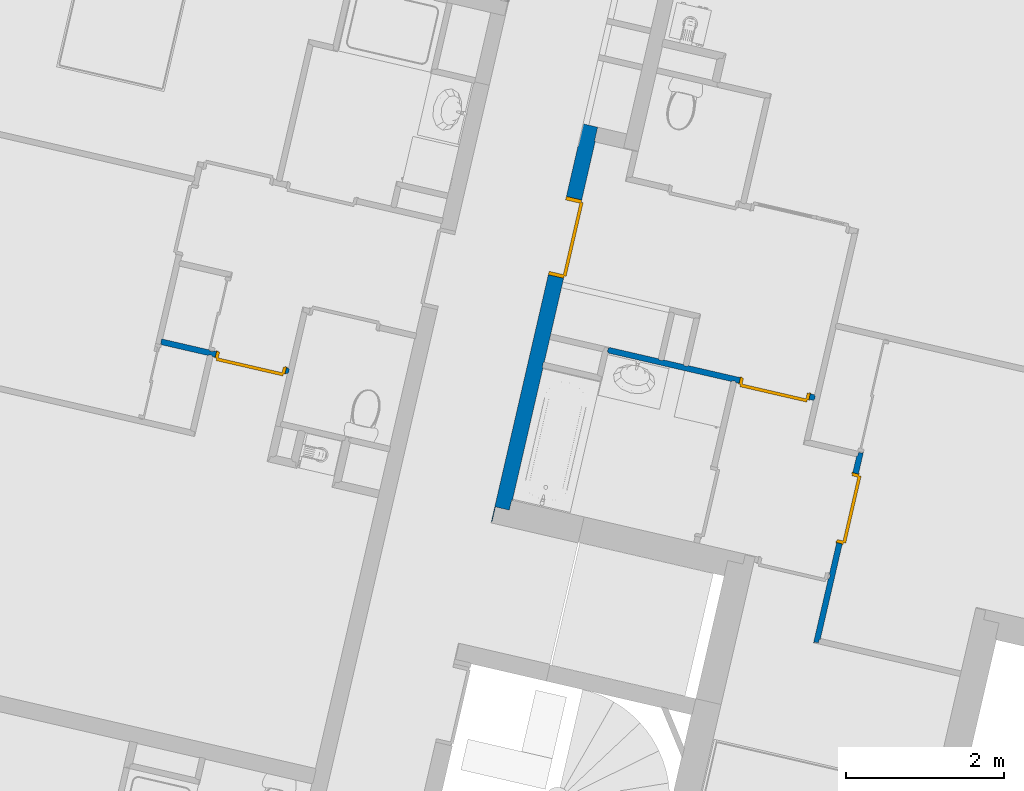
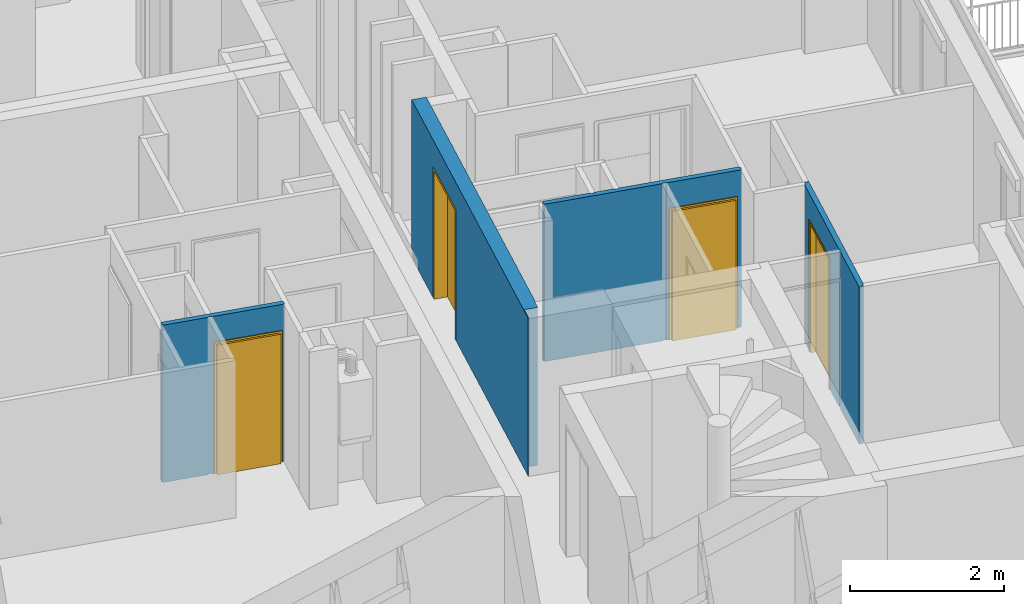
# One storey, part 22 of 91: 4 doors, 4 walls, 4 openings.
"""IFC2X3 building model written with IfcOpenShell, lengths in metres."""

from ifc_helpers import new_model, entity, si_unit, converted_unit, derived_unit, money_unit, direction, frame, origin_with_axes, place, context, subcontext, project, spatial, faceted_brep, source, transform, mapped, material, material_list, type_object, element, fill, save


model = new_model("IFC2X3")

# Units and contexts
model_context = context("Model", 3, precision=1e-05, world=origin_with_axes(), true_north=direction((0.0, 1.0)))
body_context = subcontext(model_context, "Body", "Model", "MODEL_VIEW")
ifc_project = project(units=[si_unit("LENGTHUNIT", "METRE"), si_unit("AREAUNIT", "SQUARE_METRE"), si_unit("VOLUMEUNIT", "CUBIC_METRE"), converted_unit("PLANEANGLEUNIT", "DEGREE", entity("IfcPlaneAngleMeasure", 0.0174532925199), si_unit("PLANEANGLEUNIT", "RADIAN"), dimensions=[0, 0, 0, 0, 0, 0, 0]), si_unit("SOLIDANGLEUNIT", "STERADIAN"), money_unit("EUR"), converted_unit("TIMEUNIT", "Year", entity("IfcTimeMeasure", 31556926.0), si_unit("TIMEUNIT", "SECOND"), dimensions=[0, 0, 1, 0, 0, 0, 0]), si_unit("MASSUNIT", "GRAM", prefix="KILO"), si_unit("THERMODYNAMICTEMPERATUREUNIT", "DEGREE_CELSIUS"), si_unit("LUMINOUSINTENSITYUNIT", "LUMEN"), si_unit("ENERGYUNIT", "JOULE", prefix="MEGA"), derived_unit("THERMALCONDUCTANCEUNIT", [(si_unit("POWERUNIT", "WATT"), 1), (si_unit("LENGTHUNIT", "METRE"), -1), (si_unit("THERMODYNAMICTEMPERATUREUNIT", "KELVIN"), -1)]), derived_unit("SPECIFICHEATCAPACITYUNIT", [(si_unit("ENERGYUNIT", "JOULE"), 1), (si_unit("MASSUNIT", "GRAM", prefix="KILO"), -1), (si_unit("THERMODYNAMICTEMPERATUREUNIT", "KELVIN"), -1)]), derived_unit("MASSDENSITYUNIT", [(si_unit("MASSUNIT", "GRAM", prefix="KILO"), 1), (si_unit("VOLUMEUNIT", "CUBIC_METRE"), -1)])], contexts=[model_context])

# Site, building, storey
site_placement = place(None, origin_with_axes())
site = spatial("IfcSite", under=ifc_project, at=site_placement, Name="Site", CompositionType="ELEMENT")
building_placement = place(site_placement, origin_with_axes())
building = spatial("IfcBuilding", under=site, at=building_placement, Name="Bâtiment", CompositionType="ELEMENT")
storey_placement = place(building_placement, frame((0.0, 0.0, 5.44), z_axis=(0.0, 0.0, 1.0), x_axis=(1.0, 0.0, 0.0)))
storey = spatial("IfcBuildingStorey", under=building, at=storey_placement, Name="R+2", CompositionType="ELEMENT", Elevation=5.44)

# Wall, opening, door
ifc_material_1 = material(Name="Finition int - Plaque de plâtre")
ifc_material_2 = material(Name="Isolation - Laine de roche")
ifc_material_list_1 = material_list([ifc_material_1, ifc_material_2, ifc_material_1])
wall_type_1 = type_object("IfcWallType", Name="3 - Cloison 72mm Placostil 74", PredefinedType="USERDEFINED")
wall_1_placement = place(storey_placement, frame((-6.26516283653, -2.55576610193, 0.0), z_axis=(0.0, 0.0, 1.0), x_axis=(-0.97438734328, 0.224876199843, 0.0)))
wall_1 = element("IfcWall", 1, at=wall_1_placement, inside=storey, type_object=wall_type_1, material=ifc_material_list_1, Name="Cloison Placostil 72/48", ObjectType="PARTITIONING", context=body_context, shape_type="Brep", body=[
    faceted_brep([(1.06100000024, 0.061, 0.0), (2.67383049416, 0.061, 0.0), (2.67383049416, 0.061, 2.5), (1.06100000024, 0.061, 2.5), (1.06100000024, 0.074, 0.0), (2.67383049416, 0.074, 0.0), (2.67383049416, 0.074, 2.5), (1.06100000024, 0.074, 2.5)], [[[0, 1, 2, 3]], [[4, 5, 1, 0]], [[5, 6, 2, 1]], [[3, 2, 6, 7]], [[7, 4, 0, 3]], [[7, 6, 5, 4]]]),
    faceted_brep([(0.966469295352, 0.061, 2.08), (0.966469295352, 0.061, 0.0), (1.01300000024, 0.061, 0.0), (1.01300000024, 0.061, 2.5), (0.0, 0.061, 2.5), (0.0, 0.061, 0.0), (0.0564692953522, 0.061, 0.0), (0.0564692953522, 0.061, 2.08), (0.966469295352, 0.074, 2.08), (0.966469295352, 0.074, 0.0), (1.01300000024, 0.074, 0.0), (1.01300000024, 0.074, 2.5), (0.0, 0.074, 2.5), (0.0, 0.074, 0.0), (0.0564692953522, 0.074, 0.0), (0.0564692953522, 0.074, 2.08)], [[[0, 1, 2, 3, 4, 5, 6, 7]], [[1, 0, 8, 9]], [[1, 9, 10, 2]], [[2, 10, 11, 3]], [[4, 3, 11, 12]], [[5, 4, 12, 13]], [[14, 6, 5, 13]], [[7, 6, 14, 15]], [[0, 7, 15, 8]], [[15, 14, 13, 12, 11, 10, 9, 8]]]),
    faceted_brep([(0.966469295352, 0.013, 2.08), (0.966469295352, 0.013, 0.0), (2.68683049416, 0.013, 0.0), (2.68683049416, 0.013, 2.5), (-0.0130000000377, 0.013, 2.5), (-0.0130000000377, 0.013, 0.0), (0.0564692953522, 0.013, 0.0), (0.0564692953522, 0.013, 2.08), (0.966469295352, 0.061, 2.08), (0.966469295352, 0.061, 0.0), (2.68683049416, 0.061, 0.0), (2.68683049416, 0.061, 2.5), (-0.0130000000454, 0.061, 2.5), (-0.0130000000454, 0.061, 0.0), (0.0564692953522, 0.061, 0.0), (0.0564692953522, 0.061, 2.08)], [[[0, 1, 2, 3, 4, 5, 6, 7]], [[1, 0, 8, 9]], [[1, 9, 10, 2]], [[11, 3, 2, 10]], [[3, 11, 12, 4]], [[13, 5, 4, 12]], [[14, 6, 5, 13]], [[7, 6, 14, 15]], [[0, 7, 15, 8]], [[15, 14, 13, 12, 11, 10, 9, 8]]]),
    faceted_brep([(2.02383049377, 0.0, 0.0), (2.67383049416, 0.0, 0.0), (2.67383049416, 0.0, 2.5), (2.02383049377, 0.0, 2.5), (2.02383049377, 0.013, 0.0), (2.67383049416, 0.013, 0.0), (2.67383049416, 0.013, 2.5), (2.02383049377, 0.013, 2.5)], [[[0, 1, 2, 3]], [[4, 5, 1, 0]], [[5, 6, 2, 1]], [[3, 2, 6, 7]], [[7, 4, 0, 3]], [[7, 6, 5, 4]]]),
    faceted_brep([(1.69983049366, 0.0, 0.0), (1.69983049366, 0.013, 0.0), (1.97583049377, 0.013, 0.0), (1.97583049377, 0.0, 0.0), (1.69983049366, 0.0, 2.5), (1.69983049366, 0.013, 2.5), (1.97583049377, 0.013, 2.5), (1.97583049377, 0.0, 2.5)], [[[0, 1, 2, 3]], [[1, 0, 4, 5]], [[1, 5, 6, 2]], [[7, 3, 2, 6]], [[4, 0, 3, 7]], [[5, 4, 7, 6]]]),
    faceted_brep([(0.966469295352, 0.0, 2.08), (0.966469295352, 0.0, 0.0), (1.65183049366, 0.0, 0.0), (1.65183049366, 0.0, 2.5), (0.0, 0.0, 2.5), (0.0, 0.0, 0.0), (0.0564692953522, 0.0, 0.0), (0.0564692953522, 0.0, 2.08), (0.966469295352, 0.013, 2.08), (0.966469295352, 0.013, 0.0), (1.65183049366, 0.013, 0.0), (1.65183049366, 0.013, 2.5), (0.0, 0.013, 2.5), (0.0, 0.013, 0.0), (0.0564692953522, 0.013, 0.0), (0.0564692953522, 0.013, 2.08)], [[[0, 1, 2, 3, 4, 5, 6, 7]], [[1, 0, 8, 9]], [[1, 9, 10, 2]], [[2, 10, 11, 3]], [[4, 3, 11, 12]], [[5, 4, 12, 13]], [[14, 6, 5, 13]], [[7, 6, 14, 15]], [[0, 7, 15, 8]], [[15, 14, 13, 12, 11, 10, 9, 8]]]),
])
opening_1_placement = place(wall_1_placement, frame((0.511469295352, 0.0, 0.0), z_axis=(0.0, 0.0, 1.0), x_axis=(1.0, 0.0, 0.0)))
opening_1 = element("IfcOpeningElement", 2, at=opening_1_placement, cuts=wall_1, Name="Porte 83x204 bois alvéolaire", context=body_context, shape_type="Brep", body=[
    faceted_brep([(0.455, -0.074, 0.0), (-0.455, -0.074, 0.0), (-0.455, 0.074, 0.0), (0.455, 0.074, 0.0), (0.455, -0.074, 2.08), (-0.455, -0.074, 2.08), (-0.455, 0.074, 2.08), (0.455, 0.074, 2.08)], [[[0, 1, 2, 3]], [[0, 4, 5, 1]], [[1, 5, 6, 2]], [[3, 2, 6, 7]], [[4, 0, 3, 7]], [[5, 4, 7, 6]]]),
])
door_style_1 = type_object("IfcDoorStyle", Name="Porte int générique 2019", ConstructionType="NOTDEFINED", OperationType="SINGLE_SWING_RIGHT", ParameterTakesPrecedence=False, Sizeable=False)
shared_shape_1 = source(origin_with_axes(), body_context, "Body", "Brep", [
    faceted_brep([(0.455, -0.006, 0.0), (0.415, -0.006, 0.0), (0.415, -0.006, 2.04), (-0.415, -0.006, 2.04), (-0.415, -0.006, 0.0), (-0.455, -0.006, 0.0), (-0.455, -0.006, 2.08), (0.455, -0.006, 2.08), (0.455, -0.08, 0.0), (0.415, -0.08, 0.0), (0.415, -0.08, 2.04), (-0.415, -0.08, 2.04), (-0.415, -0.08, 0.0), (-0.455, -0.08, 0.0), (-0.455, -0.08, 2.08), (0.455, -0.08, 2.08)], [[[0, 1, 2, 3, 4, 5, 6, 7]], [[0, 8, 9, 1]], [[1, 9, 10, 2]], [[2, 10, 11, 3]], [[3, 11, 12, 4]], [[5, 4, 12, 13]], [[14, 6, 5, 13]], [[15, 7, 6, 14]], [[8, 0, 7, 15]], [[9, 8, 15, 14, 13, 12, 11, 10]]]),
    faceted_brep([(0.465, -0.006, 0.0), (0.465, 0.004, 0.0), (0.465, 0.004, 2.09), (0.465, -0.006, 2.09), (0.435, -0.006, 0.0), (0.435, 0.004, 0.0), (0.435, 0.004, 2.06), (-0.435, 0.004, 2.06), (-0.435, 0.004, 0.0), (-0.465, 0.004, 0.0), (-0.465, 0.004, 2.09), (-0.465, -0.006, 2.09), (-0.465, -0.006, 0.0), (-0.435, -0.006, 0.0), (-0.435, -0.006, 2.06), (0.435, -0.006, 2.06)], [[[0, 1, 2, 3]], [[0, 4, 5, 1]], [[1, 5, 6, 7, 8, 9, 10, 2]], [[3, 2, 10, 11]], [[4, 0, 3, 11, 12, 13, 14, 15]], [[5, 4, 15, 6]], [[6, 15, 14, 7]], [[7, 14, 13, 8]], [[12, 9, 8, 13]], [[11, 10, 9, 12]]]),
    faceted_brep([(0.465, -0.09, 0.0), (0.465, -0.08, 0.0), (0.465, -0.08, 2.09), (0.465, -0.09, 2.09), (0.435, -0.09, 0.0), (0.435, -0.08, 0.0), (0.435, -0.08, 2.06), (-0.435, -0.08, 2.06), (-0.435, -0.08, 0.0), (-0.465, -0.08, 0.0), (-0.465, -0.08, 2.09), (-0.465, -0.09, 2.09), (-0.465, -0.09, 0.0), (-0.435, -0.09, 0.0), (-0.435, -0.09, 2.06), (0.435, -0.09, 2.06)], [[[0, 1, 2, 3]], [[0, 4, 5, 1]], [[1, 5, 6, 7, 8, 9, 10, 2]], [[3, 2, 10, 11]], [[4, 0, 3, 11, 12, 13, 14, 15]], [[5, 4, 15, 6]], [[6, 15, 14, 7]], [[7, 14, 13, 8]], [[12, 9, 8, 13]], [[11, 10, 9, 12]]]),
    faceted_brep([(0.435, 0.034, 0.0), (0.435, -0.006, 0.0), (-0.435, -0.006, 0.0), (-0.435, 0.034, 0.0), (0.435, 0.034, 2.06), (0.435, -0.006, 2.06), (-0.435, -0.006, 2.06), (-0.435, 0.034, 2.06)], [[[0, 1, 2, 3]], [[4, 5, 1, 0]], [[1, 5, 6, 2]], [[3, 2, 6, 7]], [[0, 3, 7, 4]], [[7, 6, 5, 4]]]),
])
door_1_placement = place(opening_1_placement, frame((-0.415, 0.0, 0.0), z_axis=(0.0, 0.0, 1.0), x_axis=(1.0, 0.0, 0.0)))
door_1 = element("IfcDoor", 3, at=door_1_placement, inside=storey, type_object=door_style_1, Name="Porte 83x204 bois alvéolaire", ObjectType="DOOR", OverallHeight=2.04, OverallWidth=0.83, context=body_context, shape_type="MappedRepresentation", body=[
    mapped(shared_shape_1, transform((0.415, 0.08, 0.0))),
])
fill(opening_1, door_1)

wall_2_placement = place(storey_placement, frame((-12.9591073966, -2.29017041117, 0.0), z_axis=(0.0, 0.0, 1.0), x_axis=(-0.974387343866, 0.224876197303, 0.0)))
wall_2 = element("IfcWall", 4, at=wall_2_placement, inside=storey, type_object=wall_type_1, material=ifc_material_list_1, Name="Cloison Placostil 72/48", ObjectType="PARTITIONING", context=body_context, shape_type="Brep", body=[
    faceted_brep([(1.02802042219, -0.013, 2.5), (1.64102042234, -0.013, 2.5), (1.64102042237, 0.0, 2.5), (1.02802042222, 0.0, 2.5), (1.02802042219, -0.013, 0.0), (1.64102042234, -0.013, 0.0), (1.64102042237, 0.0, 0.0), (1.02802042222, 0.0, 0.0)], [[[0, 1, 2, 3]], [[4, 5, 1, 0]], [[6, 2, 1, 5]], [[3, 2, 6, 7]], [[7, 4, 0, 3]], [[7, 6, 5, 4]]]),
    faceted_brep([(0.93851021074, -0.013, 2.08), (0.93851021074, -0.013, 0.0), (0.980020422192, -0.013, 0.0), (0.980020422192, -0.013, 2.5), (4.61890081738e-10, -0.013, 2.5), (4.61890081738e-10, -0.013, 0.0), (0.02851021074, -0.013, 0.0), (0.02851021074, -0.013, 2.08), (0.93851021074, 0.0, 2.08), (0.93851021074, 0.0, 0.0), (0.980020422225, 0.0, 0.0), (0.980020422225, 0.0, 2.5), (4.95568031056e-10, 0.0, 2.5), (4.95568031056e-10, 0.0, 0.0), (0.02851021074, 0.0, 0.0), (0.02851021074, 0.0, 2.08)], [[[0, 1, 2, 3, 4, 5, 6, 7]], [[1, 0, 8, 9]], [[1, 9, 10, 2]], [[3, 2, 10, 11]], [[11, 12, 4, 3]], [[4, 12, 13, 5]], [[14, 6, 5, 13]], [[7, 6, 14, 15]], [[0, 7, 15, 8]], [[15, 14, 13, 12, 11, 10, 9, 8]]]),
    faceted_brep([(0.93851021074, -0.061, 2.08), (0.93851021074, -0.061, 0.0), (1.65402042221, -0.061, 0.0), (1.65402042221, -0.061, 2.5), (-0.0129999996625, -0.061, 2.5), (-0.0129999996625, -0.061, 0.0), (0.02851021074, -0.061, 0.0), (0.02851021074, -0.061, 2.08), (0.93851021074, -0.013, 2.08), (0.93851021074, -0.013, 0.0), (1.65402042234, -0.013, 0.0), (1.65402042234, -0.013, 2.5), (-0.0129999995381, -0.013, 2.5), (-0.0129999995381, -0.013, 0.0), (0.02851021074, -0.013, 0.0), (0.02851021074, -0.013, 2.08)], [[[0, 1, 2, 3, 4, 5, 6, 7]], [[1, 0, 8, 9]], [[1, 9, 10, 2]], [[11, 3, 2, 10]], [[3, 11, 12, 4]], [[5, 4, 12, 13]], [[14, 6, 5, 13]], [[7, 6, 14, 15]], [[0, 7, 15, 8]], [[15, 14, 13, 12, 11, 10, 9, 8]]]),
    faceted_brep([(1.02802042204, -0.074, 0.0), (1.65402042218, -0.074, 0.0), (1.65402042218, -0.074, 2.5), (1.02802042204, -0.074, 2.5), (1.02802042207, -0.061, 0.0), (1.65402042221, -0.061, 0.0), (1.65402042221, -0.061, 2.5), (1.02802042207, -0.061, 2.5)], [[[0, 1, 2, 3]], [[4, 5, 1, 0]], [[5, 6, 2, 1]], [[3, 2, 6, 7]], [[4, 0, 3, 7]], [[7, 6, 5, 4]]]),
    faceted_brep([(0.93851021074, -0.074, 2.08), (0.93851021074, -0.074, 0.0), (0.980020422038, -0.074, 0.0), (0.980020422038, -0.074, 2.5), (3.03858271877e-10, -0.074, 2.5), (3.03858271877e-10, -0.074, 0.0), (0.02851021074, -0.074, 0.0), (0.02851021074, -0.074, 2.08), (0.93851021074, -0.061, 2.08), (0.93851021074, -0.061, 0.0), (0.98002042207, -0.061, 0.0), (0.98002042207, -0.061, 2.5), (3.37536221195e-10, -0.061, 2.5), (3.37536221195e-10, -0.061, 0.0), (0.02851021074, -0.061, 0.0), (0.02851021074, -0.061, 2.08)], [[[0, 1, 2, 3, 4, 5, 6, 7]], [[1, 0, 8, 9]], [[1, 9, 10, 2]], [[3, 2, 10, 11]], [[11, 12, 4, 3]], [[4, 12, 13, 5]], [[14, 6, 5, 13]], [[7, 6, 14, 15]], [[0, 7, 15, 8]], [[15, 14, 13, 12, 11, 10, 9, 8]]]),
])
opening_2_placement = place(wall_2_placement, frame((0.48351021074, 0.0, 0.0), z_axis=(0.0, 0.0, 1.0), x_axis=(1.0, 0.0, 0.0)))
opening_2 = element("IfcOpeningElement", 5, at=opening_2_placement, cuts=wall_2, Name="Porte 83x204 bois alvéolaire", context=body_context, shape_type="Brep", body=[
    faceted_brep([(-0.455, 0.074, 0.0), (0.455, 0.074, 0.0), (0.455, -0.074, 0.0), (-0.455, -0.074, 0.0), (-0.455, 0.074, 2.08), (0.455, 0.074, 2.08), (0.455, -0.074, 2.08), (-0.455, -0.074, 2.08)], [[[0, 1, 2, 3]], [[0, 4, 5, 1]], [[1, 5, 6, 2]], [[3, 2, 6, 7]], [[4, 0, 3, 7]], [[5, 4, 7, 6]]]),
])
door_style_2 = type_object("IfcDoorStyle", Name="Porte int générique 2019", ConstructionType="NOTDEFINED", OperationType="SINGLE_SWING_LEFT", ParameterTakesPrecedence=False, Sizeable=False)
shared_shape_2 = source(origin_with_axes(), body_context, "Body", "Brep", [
    faceted_brep([(-0.455, -0.006, 0.0), (-0.455, -0.006, 2.08), (0.455, -0.006, 2.08), (0.455, -0.006, 0.0), (0.415, -0.006, 0.0), (0.415, -0.006, 2.04), (-0.415, -0.006, 2.04), (-0.415, -0.006, 0.0), (-0.455, -0.08, 0.0), (-0.455, -0.08, 2.08), (0.455, -0.08, 2.08), (0.455, -0.08, 0.0), (0.415, -0.08, 0.0), (0.415, -0.08, 2.04), (-0.415, -0.08, 2.04), (-0.415, -0.08, 0.0)], [[[0, 1, 2, 3, 4, 5, 6, 7]], [[8, 9, 1, 0]], [[9, 10, 2, 1]], [[10, 11, 3, 2]], [[3, 11, 12, 4]], [[5, 4, 12, 13]], [[6, 5, 13, 14]], [[7, 6, 14, 15]], [[0, 7, 15, 8]], [[15, 14, 13, 12, 11, 10, 9, 8]]]),
    faceted_brep([(-0.465, -0.006, 0.0), (-0.465, -0.006, 2.09), (-0.465, 0.004, 2.09), (-0.465, 0.004, 0.0), (-0.435, -0.006, 0.0), (-0.435, -0.006, 2.06), (0.435, -0.006, 2.06), (0.435, -0.006, 0.0), (0.465, -0.006, 0.0), (0.465, -0.006, 2.09), (0.465, 0.004, 2.09), (0.465, 0.004, 0.0), (0.435, 0.004, 0.0), (0.435, 0.004, 2.06), (-0.435, 0.004, 2.06), (-0.435, 0.004, 0.0)], [[[0, 1, 2, 3]], [[4, 5, 6, 7, 8, 9, 1, 0]], [[1, 9, 10, 2]], [[3, 2, 10, 11, 12, 13, 14, 15]], [[0, 3, 15, 4]], [[15, 14, 5, 4]], [[14, 13, 6, 5]], [[13, 12, 7, 6]], [[8, 7, 12, 11]], [[9, 8, 11, 10]]]),
    faceted_brep([(-0.465, -0.09, 0.0), (-0.465, -0.09, 2.09), (-0.465, -0.08, 2.09), (-0.465, -0.08, 0.0), (-0.435, -0.09, 0.0), (-0.435, -0.09, 2.06), (0.435, -0.09, 2.06), (0.435, -0.09, 0.0), (0.465, -0.09, 0.0), (0.465, -0.09, 2.09), (0.465, -0.08, 2.09), (0.465, -0.08, 0.0), (0.435, -0.08, 0.0), (0.435, -0.08, 2.06), (-0.435, -0.08, 2.06), (-0.435, -0.08, 0.0)], [[[0, 1, 2, 3]], [[4, 5, 6, 7, 8, 9, 1, 0]], [[1, 9, 10, 2]], [[3, 2, 10, 11, 12, 13, 14, 15]], [[0, 3, 15, 4]], [[15, 14, 5, 4]], [[14, 13, 6, 5]], [[13, 12, 7, 6]], [[8, 7, 12, 11]], [[9, 8, 11, 10]]]),
    faceted_brep([(-0.435, 0.034, 0.0), (0.435, 0.034, 0.0), (0.435, -0.006, 0.0), (-0.435, -0.006, 0.0), (-0.435, 0.034, 2.06), (0.435, 0.034, 2.06), (0.435, -0.006, 2.06), (-0.435, -0.006, 2.06)], [[[0, 1, 2, 3]], [[0, 4, 5, 1]], [[1, 5, 6, 2]], [[3, 2, 6, 7]], [[4, 0, 3, 7]], [[5, 4, 7, 6]]]),
])
door_2_placement = place(opening_2_placement, frame((-0.415, 0.0, 0.0), z_axis=(0.0, 0.0, 1.0), x_axis=(1.0, 0.0, 0.0)))
door_2 = element("IfcDoor", 6, at=door_2_placement, inside=storey, type_object=door_style_2, Name="Porte 83x204 bois alvéolaire", ObjectType="DOOR", OverallHeight=2.04, OverallWidth=0.83, context=body_context, shape_type="MappedRepresentation", body=[
    mapped(shared_shape_2, transform((0.415, 0.006, 0.0))),
])
fill(opening_2, door_2)

wall_3_placement = place(storey_placement, frame((-6.26296169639, -5.63237108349, 0.0), z_axis=(0.0, 0.0, 1.0), x_axis=(0.224876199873, 0.974387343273, 0.0)))
wall_3 = element("IfcWall", 7, at=wall_3_placement, inside=storey, type_object=wall_type_1, material=ifc_material_list_1, Name="Cloison Placostil 72/48", ObjectType="PARTITIONING", context=body_context, shape_type="Brep", body=[
    faceted_brep([(1.23167736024, -0.013, 0.0), (1.23167736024, -0.013, 2.08), (2.14167736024, -0.013, 2.08), (2.14167736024, -0.013, 0.0), (2.36230996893, -0.013, 0.0), (2.36230996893, -0.013, 2.5), (0.815757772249, -0.013, 2.5), (0.815757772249, -0.013, 0.0), (1.23167736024, 0.0, 0.0), (1.23167736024, 0.0, 2.08), (2.14167736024, 0.0, 2.08), (2.14167736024, 0.0, 0.0), (2.36230996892, 0.0, 0.0), (2.36230996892, 0.0, 2.5), (0.815757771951, 0.0, 2.5), (0.815757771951, 0.0, 0.0)], [[[0, 1, 2, 3, 4, 5, 6, 7]], [[1, 0, 8, 9]], [[2, 1, 9, 10]], [[3, 2, 10, 11]], [[3, 11, 12, 4]], [[5, 4, 12, 13]], [[13, 14, 6, 5]], [[6, 14, 15, 7]], [[8, 0, 7, 15]], [[9, 8, 15, 14, 13, 12, 11, 10]]]),
    faceted_brep([(0.767757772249, -0.013, 2.5), (0.767757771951, 0.0, 2.5), (-0.074, 0.0, 2.5), (-0.0740000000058, -0.013, 2.5), (0.767757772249, -0.013, 0.0), (0.767757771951, 0.0, 0.0), (-0.074, 0.0, 0.0), (-0.0740000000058, -0.013, 0.0)], [[[0, 1, 2, 3]], [[1, 0, 4, 5]], [[1, 5, 6, 2]], [[7, 3, 2, 6]], [[4, 0, 3, 7]], [[5, 4, 7, 6]]]),
    faceted_brep([(1.23167736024, -0.061, 0.0), (1.23167736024, -0.061, 2.08), (2.14167736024, -0.061, 2.08), (2.14167736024, -0.061, 0.0), (2.41030996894, -0.061, 0.0), (2.41030996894, -0.061, 2.5), (-0.0610000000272, -0.061, 2.5), (-0.0610000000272, -0.061, 0.0), (1.23167736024, -0.013, 0.0), (1.23167736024, -0.013, 2.08), (2.14167736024, -0.013, 2.08), (2.14167736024, -0.013, 0.0), (2.41030996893, -0.013, 0.0), (2.41030996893, -0.013, 2.5), (-0.0610000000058, -0.013, 2.5), (-0.0610000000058, -0.013, 0.0)], [[[0, 1, 2, 3, 4, 5, 6, 7]], [[1, 0, 8, 9]], [[2, 1, 9, 10]], [[3, 2, 10, 11]], [[3, 11, 12, 4]], [[5, 4, 12, 13]], [[13, 14, 6, 5]], [[6, 14, 15, 7]], [[8, 0, 7, 15]], [[9, 8, 15, 14, 13, 12, 11, 10]]]),
    faceted_brep([(1.23167736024, -0.074, 0.0), (1.23167736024, -0.074, 2.08), (2.14167736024, -0.074, 2.08), (2.14167736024, -0.074, 0.0), (2.42330996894, -0.074, 0.0), (2.42330996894, -0.074, 2.5), (-0.0130000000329, -0.074, 2.5), (-0.0130000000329, -0.074, 0.0), (1.23167736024, -0.061, 0.0), (1.23167736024, -0.061, 2.08), (2.14167736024, -0.061, 2.08), (2.14167736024, -0.061, 0.0), (2.42330996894, -0.061, 0.0), (2.42330996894, -0.061, 2.5), (-0.0130000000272, -0.061, 2.5), (-0.0130000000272, -0.061, 0.0)], [[[0, 1, 2, 3, 4, 5, 6, 7]], [[1, 0, 8, 9]], [[2, 1, 9, 10]], [[3, 2, 10, 11]], [[3, 11, 12, 4]], [[5, 4, 12, 13]], [[13, 14, 6, 5]], [[6, 14, 15, 7]], [[8, 0, 7, 15]], [[9, 8, 15, 14, 13, 12, 11, 10]]]),
])
opening_3_placement = place(wall_3_placement, frame((1.68667736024, 0.0, 0.0), z_axis=(0.0, 0.0, 1.0), x_axis=(1.0, 0.0, 0.0)))
opening_3 = element("IfcOpeningElement", 8, at=opening_3_placement, cuts=wall_3, Name="Porte 83x204 bois alvéolaire", context=body_context, shape_type="Brep", body=[
    faceted_brep([(-0.455, 0.074, 0.0), (0.455, 0.074, 0.0), (0.455, -0.074, 0.0), (-0.455, -0.074, 0.0), (-0.455, 0.074, 2.08), (0.455, 0.074, 2.08), (0.455, -0.074, 2.08), (-0.455, -0.074, 2.08)], [[[0, 1, 2, 3]], [[0, 4, 5, 1]], [[1, 5, 6, 2]], [[3, 2, 6, 7]], [[4, 0, 3, 7]], [[5, 4, 7, 6]]]),
])
shared_shape_3 = source(origin_with_axes(), body_context, "Body", "Brep", [
    faceted_brep([(0.455, 0.0, 0.0), (0.415, 0.0, 0.0), (0.415, 0.0, 2.04), (-0.415, 0.0, 2.04), (-0.415, 0.0, 0.0), (-0.455, 0.0, 0.0), (-0.455, 0.0, 2.08), (0.455, 0.0, 2.08), (0.455, -0.074, 0.0), (0.415, -0.074, 0.0), (0.415, -0.074, 2.04), (-0.415, -0.074, 2.04), (-0.415, -0.074, 0.0), (-0.455, -0.074, 0.0), (-0.455, -0.074, 2.08), (0.455, -0.074, 2.08)], [[[0, 1, 2, 3, 4, 5, 6, 7]], [[0, 8, 9, 1]], [[1, 9, 10, 2]], [[2, 10, 11, 3]], [[3, 11, 12, 4]], [[5, 4, 12, 13]], [[14, 6, 5, 13]], [[15, 7, 6, 14]], [[8, 0, 7, 15]], [[9, 8, 15, 14, 13, 12, 11, 10]]]),
    faceted_brep([(0.465, 0.0, 0.0), (0.465, 0.01, 0.0), (0.465, 0.01, 2.09), (0.465, 0.0, 2.09), (0.435, 0.0, 0.0), (0.435, 0.01, 0.0), (0.435, 0.01, 2.06), (-0.435, 0.01, 2.06), (-0.435, 0.01, 0.0), (-0.465, 0.01, 0.0), (-0.465, 0.01, 2.09), (-0.465, 0.0, 2.09), (-0.465, 0.0, 0.0), (-0.435, 0.0, 0.0), (-0.435, 0.0, 2.06), (0.435, 0.0, 2.06)], [[[0, 1, 2, 3]], [[0, 4, 5, 1]], [[1, 5, 6, 7, 8, 9, 10, 2]], [[3, 2, 10, 11]], [[4, 0, 3, 11, 12, 13, 14, 15]], [[5, 4, 15, 6]], [[6, 15, 14, 7]], [[7, 14, 13, 8]], [[12, 9, 8, 13]], [[11, 10, 9, 12]]]),
    faceted_brep([(0.465, -0.084, 0.0), (0.465, -0.074, 0.0), (0.465, -0.074, 2.09), (0.465, -0.084, 2.09), (0.435, -0.084, 0.0), (0.435, -0.074, 0.0), (0.435, -0.074, 2.06), (-0.435, -0.074, 2.06), (-0.435, -0.074, 0.0), (-0.465, -0.074, 0.0), (-0.465, -0.074, 2.09), (-0.465, -0.084, 2.09), (-0.465, -0.084, 0.0), (-0.435, -0.084, 0.0), (-0.435, -0.084, 2.06), (0.435, -0.084, 2.06)], [[[0, 1, 2, 3]], [[0, 4, 5, 1]], [[1, 5, 6, 7, 8, 9, 10, 2]], [[3, 2, 10, 11]], [[4, 0, 3, 11, 12, 13, 14, 15]], [[5, 4, 15, 6]], [[6, 15, 14, 7]], [[7, 14, 13, 8]], [[12, 9, 8, 13]], [[11, 10, 9, 12]]]),
    faceted_brep([(0.435, 0.04, 0.0), (0.435, 0.0, 0.0), (-0.435, 0.0, 0.0), (-0.435, 0.04, 0.0), (0.435, 0.04, 2.06), (0.435, 0.0, 2.06), (-0.435, 0.0, 2.06), (-0.435, 0.04, 2.06)], [[[0, 1, 2, 3]], [[4, 5, 1, 0]], [[1, 5, 6, 2]], [[3, 2, 6, 7]], [[0, 3, 7, 4]], [[7, 6, 5, 4]]]),
])
door_3_placement = place(opening_3_placement, frame((0.415, 0.0, 0.0), z_axis=(0.0, 0.0, 1.0), x_axis=(-1.0, 0.0, 0.0)))
door_3 = element("IfcDoor", 9, at=door_3_placement, inside=storey, type_object=door_style_1, Name="Porte 83x204 bois alvéolaire", ObjectType="DOOR", OverallHeight=2.04, OverallWidth=0.83, context=body_context, shape_type="MappedRepresentation", body=[
    mapped(shared_shape_3, transform((0.415, 0.074, 0.0))),
])
fill(opening_3, door_3)

ifc_material_3 = material(Name="Finition int - Enduit plâtre")
ifc_material_4 = material(Name="Béton")
ifc_material_list_2 = material_list([ifc_material_3, ifc_material_4, ifc_material_3])
wall_type_2 = type_object("IfcWallType", Name="2 - Murs Béton 18 + Enduit 2 Faces 200", PredefinedType="USERDEFINED")
wall_4_placement = place(storey_placement, frame((-9.20392746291, 0.883172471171, 0.0), z_axis=(0.0, 0.0, 1.0), x_axis=(-0.2248761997, -0.974387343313, 0.0)))
wall_4 = element("IfcWall", 10, at=wall_4_placement, inside=storey, type_object=wall_type_2, material=ifc_material_list_2, Name="M_Ext-008", ObjectType="SOLIDWALL", context=body_context, shape_type="Brep", body=[
    faceted_brep([(1.96600000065, 0.2, 0.0), (1.96600000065, 0.2, 2.085), (0.946000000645, 0.2, 2.085), (0.946000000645, 0.2, 0.0), (0.179999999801, 0.2, 0.0), (0.179999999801, 0.2, 2.5), (-1.98899119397e-10, 0.2, 2.5), (0.0, 0.2, 2.51), (4.85855221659, 0.2, 2.51), (4.85855221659, 0.2, 0.0), (3.13355221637, 0.2, 0.0), (3.13355221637, 0.2, 2.5), (3.05955221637, 0.2, 2.5), (3.05955221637, 0.2, 0.0), (1.96600000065, 0.19, 0.0), (1.96600000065, 0.19, 2.085), (0.946000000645, 0.19, 2.085), (0.946000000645, 0.19, 0.0), (0.179999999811, 0.19, 0.0), (0.179999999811, 0.19, 2.5), (-1.88954185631e-10, 0.19, 2.5), (0.0, 0.19, 2.51), (4.85855221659, 0.19, 2.51), (4.85855221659, 0.19, 0.0), (3.13355221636, 0.19, 0.0), (3.13355221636, 0.19, 2.5), (3.05955221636, 0.19, 2.5), (3.05955221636, 0.19, 0.0)], [[[0, 1, 2, 3, 4, 5, 6, 7, 8, 9, 10, 11, 12, 13]], [[1, 0, 14, 15]], [[2, 1, 15, 16]], [[3, 2, 16, 17]], [[3, 17, 18, 4]], [[4, 18, 19, 5]], [[20, 6, 5, 19]], [[6, 20, 21, 7]], [[8, 7, 21, 22]], [[9, 8, 22, 23]], [[24, 10, 9, 23]], [[11, 10, 24, 25]], [[12, 11, 25, 26]], [[13, 12, 26, 27]], [[14, 0, 13, 27]], [[15, 14, 27, 26, 25, 24, 23, 22, 21, 20, 19, 18, 17, 16]]]),
    faceted_brep([(1.96600000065, 0.19, 0.0), (1.96600000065, 0.19, 2.085), (0.946000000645, 0.19, 2.085), (0.946000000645, 0.19, 0.0), (-1.88953741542e-10, 0.19, 0.0), (-1.88954185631e-10, 0.19, 0.150000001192), (-1.88954185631e-10, 0.19, 2.5), (0.0, 0.19, 2.51), (4.98855221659, 0.19, 2.51), (4.98855221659, 0.19, 0.0), (1.96600000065, 0.01, 0.0), (1.96600000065, 0.01, 2.085), (0.946000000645, 0.01, 2.085), (0.946000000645, 0.01, 0.0), (0.0, 0.01, 0.0), (0.0, 0.01, 0.150000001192), (0.0, 0.01, 2.5), (0.0, 0.01, 2.51), (4.98855221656, 0.01, 2.51), (4.98855221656, 0.01, 0.0)], [[[0, 1, 2, 3, 4, 5, 6, 7, 8, 9]], [[1, 0, 10, 11]], [[2, 1, 11, 12]], [[3, 2, 12, 13]], [[3, 13, 14, 4]], [[14, 15, 5, 4]], [[6, 5, 15, 16]], [[7, 6, 16, 17]], [[8, 7, 17, 18]], [[9, 8, 18, 19]], [[10, 0, 9, 19]], [[11, 10, 19, 18, 17, 16, 15, 14, 13, 12]]]),
    faceted_brep([(1.96600000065, 0.01, 0.0), (1.96600000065, 0.01, 2.085), (0.946000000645, 0.01, 2.085), (0.946000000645, 0.01, 0.0), (0.290000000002, 0.01, 0.0), (0.290000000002, 0.01, 0.15), (0.0, 0.01, 0.15), (0.0, 0.01, 2.5), (0.0, 0.01, 2.51), (5.18855221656, 0.01, 2.51), (5.18855221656, 0.01, 0.0), (1.96600000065, 0.0, 0.0), (1.96600000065, 1.28220989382e-10, 2.085), (0.946000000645, 1.28220989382e-10, 2.085), (0.946000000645, 0.0, 0.0), (0.29, 0.0, 0.0), (0.29, 0.0, 0.15), (0.0, 1.28220989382e-10, 0.15), (0.0, 0.0, 2.5), (0.0, 0.0, 2.51), (5.18855221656, 0.0, 2.51), (5.18855221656, 0.0, 0.0)], [[[0, 1, 2, 3, 4, 5, 6, 7, 8, 9, 10]], [[1, 0, 11, 12]], [[2, 1, 12, 13]], [[3, 2, 13, 14]], [[3, 14, 15, 4]], [[5, 4, 15, 16]], [[17, 6, 5, 16]], [[6, 17, 18, 7]], [[8, 7, 18, 19]], [[9, 8, 19, 20]], [[10, 9, 20, 21]], [[11, 0, 10, 21]], [[12, 11, 21, 20, 19, 18, 17, 16, 15, 14, 13]]]),
])
opening_4_placement = place(wall_4_placement, frame((1.45600000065, 0.0, 0.0), z_axis=(0.0, 0.0, 1.0), x_axis=(1.0, 0.0, 0.0)))
opening_4 = element("IfcOpeningElement", 11, at=opening_4_placement, cuts=wall_4, Name="Porte 93x204 bois blindée", context=body_context, shape_type="Brep", body=[
    faceted_brep([(0.51, -0.2, 0.0), (-0.51, -0.2, 0.0), (-0.51, 0.2, 0.0), (0.51, 0.2, 0.0), (0.51, -0.2, 2.085), (-0.51, -0.2, 2.085), (-0.51, 0.2, 2.085), (0.51, 0.2, 2.085)], [[[0, 1, 2, 3]], [[0, 4, 5, 1]], [[1, 5, 6, 2]], [[3, 2, 6, 7]], [[4, 0, 3, 7]], [[5, 4, 7, 6]]]),
])
door_style_3 = type_object("IfcDoorStyle", Name="Porte int générique 2019", ConstructionType="NOTDEFINED", OperationType="SINGLE_SWING_RIGHT", ParameterTakesPrecedence=False, Sizeable=False)
shared_shape_4 = source(origin_with_axes(), body_context, "Body", "Brep", [
    faceted_brep([(0.51, 0.0, 0.0), (0.48, 0.0, 0.0), (0.48, 0.0, 2.055), (-0.48, 0.0, 2.055), (-0.48, 0.0, 0.0), (-0.51, 0.0, 0.0), (-0.51, 0.0, 2.085), (0.51, 0.0, 2.085), (0.51, -0.2, 0.0), (0.465, -0.2, 0.0), (0.465, -0.015, 0.0), (0.48, -0.015, 0.0), (0.48, -0.015, 2.055), (-0.48, -0.015, 2.055), (-0.48, -0.015, 0.0), (-0.465, -0.015, 0.0), (-0.465, -0.2, 0.0), (-0.51, -0.2, 0.0), (-0.51, -0.2, 2.085), (0.51, -0.2, 2.085), (-0.465, -0.2, 2.04), (0.465, -0.2, 2.04), (0.465, -0.015, 2.04), (-0.465, -0.015, 2.04)], [[[0, 1, 2, 3, 4, 5, 6, 7]], [[0, 8, 9, 10, 11, 1]], [[1, 11, 12, 2]], [[2, 12, 13, 3]], [[3, 13, 14, 4]], [[5, 4, 14, 15, 16, 17]], [[18, 6, 5, 17]], [[19, 7, 6, 18]], [[8, 0, 7, 19]], [[9, 8, 19, 18, 17, 16, 20, 21]], [[10, 9, 21, 22]], [[11, 10, 22, 23, 15, 14, 13, 12]], [[23, 20, 16, 15]], [[22, 21, 20, 23]]]),
    faceted_brep([(0.48, 0.025, 0.0), (0.48, -0.015, 0.0), (-0.48, -0.015, 0.0), (-0.48, 0.025, 0.0), (0.48, 0.025, 2.055), (0.48, -0.015, 2.055), (-0.48, -0.015, 2.055), (-0.48, 0.025, 2.055)], [[[0, 1, 2, 3]], [[4, 5, 1, 0]], [[1, 5, 6, 2]], [[3, 2, 6, 7]], [[0, 3, 7, 4]], [[7, 6, 5, 4]]]),
])
door_4_placement = place(opening_4_placement, frame((-0.465, 0.0, 0.0), z_axis=(0.0, 0.0, 1.0), x_axis=(1.0, 0.0, 0.0)))
door_4 = element("IfcDoor", 12, at=door_4_placement, inside=storey, type_object=door_style_3, Name="Porte 93x204 bois blindée", ObjectType="DOOR", OverallHeight=2.04, OverallWidth=0.93, context=body_context, shape_type="MappedRepresentation", body=[
    mapped(shared_shape_4, transform((0.465, 0.2, 0.0))),
])
fill(opening_4, door_4)

save(model, "model.ifc")
